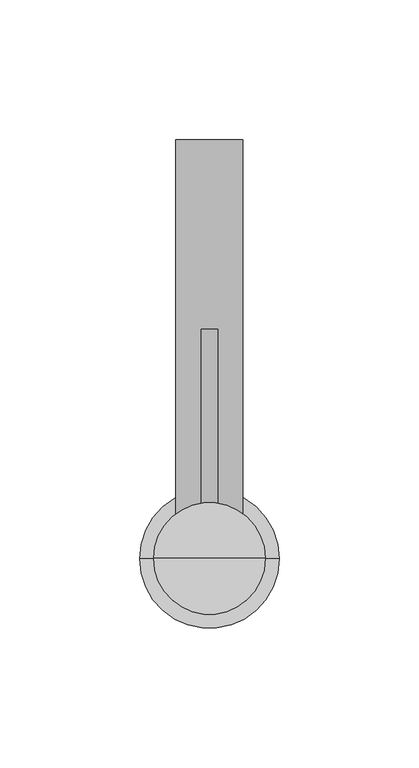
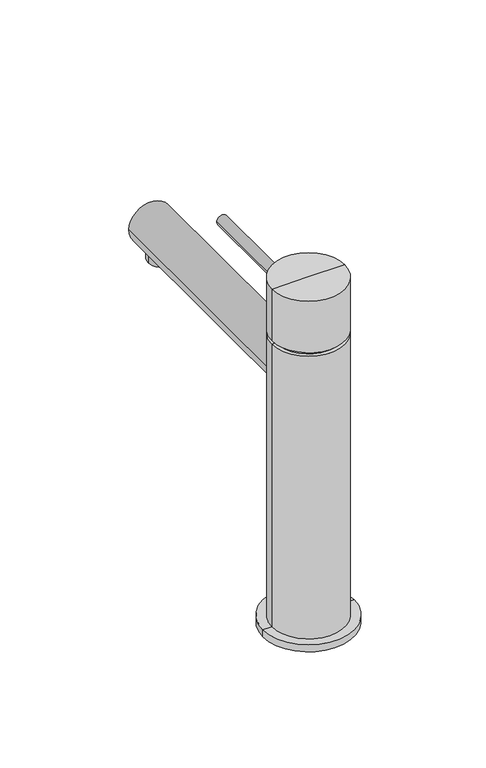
"""IFC4 building model written with IfcOpenShell, lengths in millimetres: flow terminal geometry, GF_TINA-LAVAMANOS : MEZCLADOR MONOMANDO DE LAVABO - MINUSVALIDOS."""

from ifc_helpers import new_model, si_unit, point, frame, frame_2d, origin, place, context, project, spatial, circle_curve, trimmed, segment, composite_curve, outline, extrude, source, transform, mapped, element, save
from ifc_brep_helpers import plane_surface, cylinder_surface, advanced_brep


def flow_terminal_74c15a22(model_context):
    return source(origin(), model_context, "Body", "SolidModel", [
        advanced_brep(
        [(12.0, 150.0, 140.6419785), (9.3914315, 150.0, 133.1719709), (-9.3914315, 150.0, 133.1719709), (-12.0, 150.0, 140.6419785), (-12.0, 0.0, 140.6419785), (12.0, 0.0, 140.6419785), (-9.3914315, 125.0, 133.1719709), (9.3914315, 125.0, 133.1719709)],
        [
            (0, 1, circle_curve(frame((0.0, 150.0, 140.6419785), z_axis=(0.0, 1.0, 0.0), x_axis=(1.0, 0.0, 0.0)), 12.0)),
            (1, 2),
            (2, 3, circle_curve(frame((0.0, 150.0, 140.6419785), z_axis=(0.0, 1.0, 0.0), x_axis=(1.0, 0.0, 0.0)), 12.0)),
            (3, 0, circle_curve(frame((0.0, 150.0, 140.6419785), z_axis=(0.0, 1.0, 0.0), x_axis=(1.0, 0.0, 0.0)), 12.0)),
            (4, 5, circle_curve(frame((0.0, 0.0, 140.6419785), z_axis=(0.0, -1.0, 0.0), x_axis=(1.0, 0.0, 0.0)), 12.0)),
            (5, 4, circle_curve(frame((0.0, 0.0, 140.6419785), z_axis=(0.0, -1.0, 0.0), x_axis=(1.0, 0.0, 0.0)), 12.0)),
            (4, 3),
            (2, 6),
            (6, 7, circle_curve(frame((0.0, 125.0, 140.6419785), z_axis=(0.0, -1.0, 0.0), x_axis=(1.0, 0.0, 0.0)), 12.0)),
            (7, 1),
            (0, 5),
            (7, 6),
        ],
        [
            plane_surface(frame((12.0, 150.0, 140.6419785), z_axis=(0.0, 1.0, 0.0), x_axis=(0.0, 0.0, 1.0))),
            plane_surface(frame((12.0, 0.0, 140.6419785), z_axis=(0.0, -1.0, 0.0), x_axis=(0.0, 0.0, -1.0))),
            cylinder_surface(frame((0.0, 0.0, 140.6419785), z_axis=(0.0, 1.0, 0.0), x_axis=(1.0, 0.0, 0.0)), 12.0),
            plane_surface(frame((-15.4149683, 150.0, 133.1719709), z_axis=(0.0, 0.0, -1.0), x_axis=(1.0, 0.0, 0.0))),
            plane_surface(frame((-15.4149683, 125.0, 133.1719709), z_axis=(0.0, 1.0, 0.0), x_axis=(1.0, 0.0, 0.0))),
        ],
        [
            (0, [[1, 2, 3, 4]]),
            (1, [[5, 6]]),
            (2, [[7, -3, 8, 9, 10, -1, 11, -5]]),
            (2, [[-7, -6, -11, -4]]),
            (3, [[-8, -2, -10, 12]]),
            (4, [[-9, -12]]),
        ],
    ),
        extrude(outline(composite_curve([segment(trimmed(circle_curve(frame_2d((183.2676852, 0.0)), 3.0), [point((183.2676852, -3.0))], [point((183.2676852, 3.0))], False, "CARTESIAN"), True, "CONTINUOUS"), segment(trimmed(circle_curve(frame_2d((183.2676852, 0.0)), 3.0), [point((183.2676852, 3.0))], [point((183.2676852, -3.0))], False, "CARTESIAN"), True, "CONTINUOUS")], self_intersect=False)), frame((0.0, 0.0, 0.0), z_axis=(0.0, 1.0, 0.0), x_axis=(0.0, 0.0, 1.0)), (0.0, 0.0, 1.0), 82.0430665),
        advanced_brep(
        [(0.0, 0.0, 0.0), (25.0, 0.0, 0.0), (-25.0, 0.0, 0.0), (20.0, 0.0, 200.0), (0.0, 0.0, 200.0), (-20.0, 0.0, 200.0), (-20.0, 0.0, 170.0), (20.0, 0.0, 170.0), (-18.0, 0.0, 170.0), (18.0, 0.0, 170.0), (-18.0, 0.0, 168.0), (18.0, 0.0, 168.0), (-20.0, 0.0, 168.0), (20.0, 0.0, 168.0), (-20.0, 0.0, 4.0), (20.0, 0.0, 4.0), (-25.0, 0.0, 4.0), (25.0, 0.0, 4.0)],
        [
            (0, 1),
            (1, 2, circle_curve(frame((0.0, 0.0, 0.0), z_axis=(0.0, 0.0, -1.0), x_axis=(-1.0, 0.0, 0.0)), 25.0)),
            (2, 0),
            (2, 1, circle_curve(frame((0.0, 0.0, 0.0), z_axis=(0.0, 0.0, -1.0), x_axis=(-1.0, 0.0, 0.0)), 25.0)),
            (3, 4),
            (4, 5),
            (5, 3, circle_curve(frame((0.0, 0.0, 200.0), z_axis=(0.0, 0.0, 1.0), x_axis=(-1.0, 0.0, 0.0)), 20.0)),
            (3, 5, circle_curve(frame((0.0, 0.0, 200.0), z_axis=(0.0, 0.0, 1.0), x_axis=(-1.0, 0.0, 0.0)), 20.0)),
            (5, 6),
            (6, 7, circle_curve(frame((0.0, 0.0, 170.0), z_axis=(0.0, 0.0, 1.0), x_axis=(-1.0, 0.0, 0.0)), 20.0)),
            (7, 3),
            (7, 6, circle_curve(frame((0.0, 0.0, 170.0), z_axis=(0.0, 0.0, 1.0), x_axis=(-1.0, 0.0, 0.0)), 20.0)),
            (6, 8),
            (8, 9, circle_curve(frame((0.0, 0.0, 170.0), z_axis=(0.0, 0.0, 1.0), x_axis=(-1.0, 0.0, 0.0)), 18.0)),
            (9, 7),
            (9, 8, circle_curve(frame((0.0, 0.0, 170.0), z_axis=(0.0, 0.0, 1.0), x_axis=(-1.0, 0.0, 0.0)), 18.0)),
            (8, 10),
            (10, 11, circle_curve(frame((0.0, 0.0, 168.0), z_axis=(0.0, 0.0, 1.0), x_axis=(-1.0, 0.0, 0.0)), 18.0)),
            (11, 9),
            (11, 10, circle_curve(frame((0.0, 0.0, 168.0), z_axis=(0.0, 0.0, 1.0), x_axis=(-1.0, 0.0, 0.0)), 18.0)),
            (10, 12),
            (12, 13, circle_curve(frame((0.0, 0.0, 168.0), z_axis=(0.0, 0.0, 1.0), x_axis=(-1.0, 0.0, 0.0)), 20.0)),
            (13, 11),
            (13, 12, circle_curve(frame((0.0, 0.0, 168.0), z_axis=(0.0, 0.0, 1.0), x_axis=(-1.0, 0.0, 0.0)), 20.0)),
            (12, 14),
            (14, 15, circle_curve(frame((0.0, 0.0, 4.0), z_axis=(0.0, 0.0, 1.0), x_axis=(-1.0, 0.0, 0.0)), 20.0)),
            (15, 13),
            (15, 14, circle_curve(frame((0.0, 0.0, 4.0), z_axis=(0.0, 0.0, 1.0), x_axis=(-1.0, 0.0, 0.0)), 20.0)),
            (14, 16),
            (16, 17, circle_curve(frame((0.0, 0.0, 4.0), z_axis=(0.0, 0.0, 1.0), x_axis=(-1.0, 0.0, 0.0)), 25.0)),
            (17, 15),
            (17, 16, circle_curve(frame((0.0, 0.0, 4.0), z_axis=(0.0, 0.0, 1.0), x_axis=(-1.0, 0.0, 0.0)), 25.0)),
            (1, 17),
            (16, 2),
        ],
        [
            plane_surface(frame((0.0, 0.0, 0.0), z_axis=(0.0, 0.0, -1.0), x_axis=(-1.0, 0.0, 0.0))),
            plane_surface(frame((0.0, 0.0, 200.0), z_axis=(0.0, 0.0, 1.0), x_axis=(-1.0, 0.0, 0.0))),
            cylinder_surface(frame((0.0, 0.0, -25.0), z_axis=(0.0, 0.0, -1.0), x_axis=(-1.0, 0.0, 0.0)), 20.0),
            plane_surface(frame((0.0, 0.0, 170.0), z_axis=(0.0, 0.0, -1.0), x_axis=(-1.0, 0.0, 0.0))),
            cylinder_surface(frame((0.0, 0.0, -25.0), z_axis=(0.0, 0.0, -1.0), x_axis=(-1.0, 0.0, 0.0)), 18.0),
            plane_surface(frame((0.0, 0.0, 168.0), z_axis=(0.0, 0.0, 1.0), x_axis=(-1.0, 0.0, 0.0))),
            plane_surface(frame((0.0, 0.0, 4.0), z_axis=(0.0, 0.0, 1.0), x_axis=(-1.0, 0.0, 0.0))),
            cylinder_surface(frame((0.0, 0.0, -25.0), z_axis=(0.0, 0.0, -1.0), x_axis=(-1.0, 0.0, 0.0)), 25.0),
        ],
        [
            (0, [[1, 2, 3]]),
            (0, [[4, -1, -3]]),
            (1, [[5, 6, 7]]),
            (1, [[-5, 8, -6]]),
            (2, [[9, 10, 11, -7]]),
            (2, [[-11, 12, -9, -8]]),
            (3, [[13, 14, 15, -10]]),
            (3, [[-15, 16, -13, -12]]),
            (4, [[17, 18, 19, -14]]),
            (4, [[-19, 20, -17, -16]]),
            (5, [[21, 22, 23, -18]]),
            (5, [[-23, 24, -21, -20]]),
            (2, [[25, 26, 27, -22]]),
            (2, [[-27, 28, -25, -24]]),
            (6, [[29, 30, 31, -26]]),
            (6, [[-31, 32, -29, -28]]),
            (7, [[33, -30, 34, -2]]),
            (7, [[-34, -32, -33, -4]]),
        ],
    ),
        advanced_brep(
        [(-8.0, 138.7213883, 133.1719709), (8.0, 138.7213883, 133.1719709), (-8.0, 138.7213883, 127.0717002), (8.0, 138.7213883, 127.0717002)],
        [
            (0, 1, circle_curve(frame((0.0, 138.7213883, 133.1719709), z_axis=(0.0, 0.0, 1.0), x_axis=(1.0, 0.0, 0.0)), 8.0)),
            (1, 0, circle_curve(frame((0.0, 138.7213883, 133.1719709), z_axis=(0.0, 0.0, 1.0), x_axis=(1.0, 0.0, 0.0)), 8.0)),
            (2, 3, circle_curve(frame((0.0, 138.7213883, 127.0717002), z_axis=(0.0, 0.0, -1.0), x_axis=(1.0, 0.0, 0.0)), 8.0)),
            (3, 2, circle_curve(frame((0.0, 138.7213883, 127.0717002), z_axis=(0.0, 0.0, -1.0), x_axis=(1.0, 0.0, 0.0)), 8.0)),
            (1, 3),
            (2, 0),
        ],
        [
            plane_surface(frame((8.0, 138.7213883, 133.1719709), z_axis=(0.0, 0.0, 1.0), x_axis=(0.0, -1.0, 0.0))),
            plane_surface(frame((8.0, 138.7213883, 127.0717002), z_axis=(0.0, 0.0, -1.0), x_axis=(0.0, 1.0, 0.0))),
            cylinder_surface(frame((0.0, 138.7213883, 127.0717002), z_axis=(0.0, 0.0, 1.0), x_axis=(1.0, 0.0, 0.0)), 8.0),
        ],
        [
            (0, [[1, 2]]),
            (1, [[3, 4]]),
            (2, [[5, -3, 6, -2]]),
            (2, [[-6, -4, -5, -1]]),
        ],
    ),
    ])


if __name__ == "__main__":
    model = new_model("IFC4")
    model_context = context("Model", 3, world=origin())
    ifc_project = project(units=[si_unit("LENGTHUNIT", "METRE", prefix="MILLI")], contexts=[model_context])
    site = spatial("IfcSite", under=ifc_project)
    building = spatial("IfcBuilding", under=site)
    placement = place(None, origin())
    flow_terminal_shape = flow_terminal_74c15a22(model_context)
    element("IfcFlowTerminal", 1, ObjectType="GF_TINA-LAVAMANOS : MEZCLADOR MONOMANDO DE LAVABO - MINUSVALIDOS", at=placement, inside=building, context=model_context, shape_type="MappedRepresentation", body=[
        mapped(flow_terminal_shape, transform((0.0, 0.0, 0.0), x_axis=(1.0, 0.0, 0.0), y_axis=(0.0, 1.0, 0.0), z_axis=(0.0, 0.0, 1.0))),
    ])
    save(model, "model.ifc")
